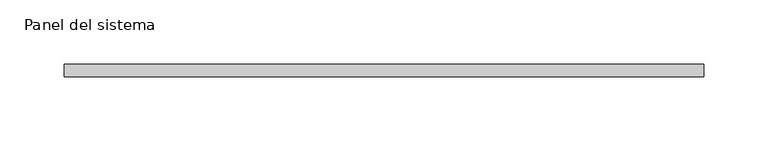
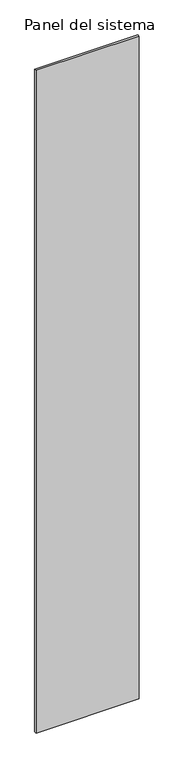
"""IFC4 building model written with IfcOpenShell, lengths in millimetres: plate geometry, Panel del sistema : HIANSA PANEL - PANELES DE CUBIERTA SIN TAPAJUNTA - EASY BOARD 5GR - Esp. 10mm."""

from ifc_helpers import new_model, si_unit, origin, origin_with_axes, place, context, project, spatial, polyline, outline, extrude, source, transform, mapped, element, save


def panel_del_sistema_870ac747(model_context):
    return source(origin(), model_context, "Body", "SweptSolid", [
        extrude(outline(polyline([(249.9999998, 35.5), (-249.9999998, 35.5), (-249.9999998, 45.5), (249.9999998, 45.5), (249.9999998, 35.5)])), origin_with_axes(), (0.0, 0.0, 1.0), 3390.8509027),
    ])


if __name__ == "__main__":
    model = new_model("IFC4")
    model_context = context("Model", 3, world=origin())
    ifc_project = project(units=[si_unit("LENGTHUNIT", "METRE", prefix="MILLI")], contexts=[model_context])
    site = spatial("IfcSite", under=ifc_project)
    building = spatial("IfcBuilding", under=site)
    placement = place(None, origin())
    panel_del_sistema_shape = panel_del_sistema_870ac747(model_context)
    element("IfcPlate", 1, ObjectType="Panel del sistema : HIANSA PANEL - PANELES DE CUBIERTA SIN TAPAJUNTA - EASY BOARD 5GR - Esp. 10mm", at=placement, inside=building, context=model_context, shape_type="MappedRepresentation", body=[
        mapped(panel_del_sistema_shape, transform((0.0, 0.0, 0.0), x_axis=(1.0, 0.0, 0.0), y_axis=(0.0, 1.0, 0.0), z_axis=(0.0, 0.0, 1.0))),
    ])
    save(model, "model.ifc")
